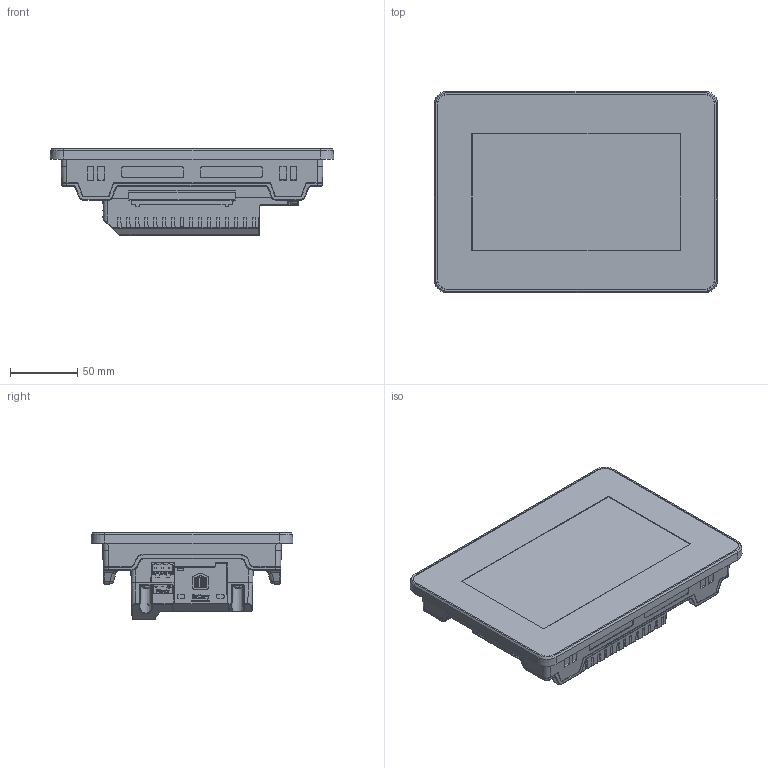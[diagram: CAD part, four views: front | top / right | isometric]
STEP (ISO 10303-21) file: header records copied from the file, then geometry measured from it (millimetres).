
FILE_DESCRIPTION (( 'STEP AP214' ), '1' );
FILE_NAME ('US7.STEP', '2024-04-18T13:45:55', ( '' ), ( '' ), 'SwSTEP 2.0', 'SolidWorks 2022', '' );
FILE_SCHEMA (( 'AUTOMOTIVE_DESIGN' ));
Length unit declared in the file: millimetre
Products named in the file (1): US7
Bounding box: 211.53 x 150.53 x 64.5 mm (x, y, z)
Volume: 1041543.5 mm3; surface area: 111899.1 mm2
Topology: 1 solids, 31 shells, 3237 faces, 8764 edges, 5704 vertices
Faces by surface type: plane 1884, cylinder 450, bspline 430, cone 392, sphere 48, torus 33
Entity records: 125266 total; most frequent: CARTESIAN_POINT 48323, ORIENTED_EDGE 17462, DIRECTION 13889, EDGE_CURVE 8731, VERTEX_POINT 5704, LINE 5495, VECTOR 5495, AXIS2_PLACEMENT_3D 4197
